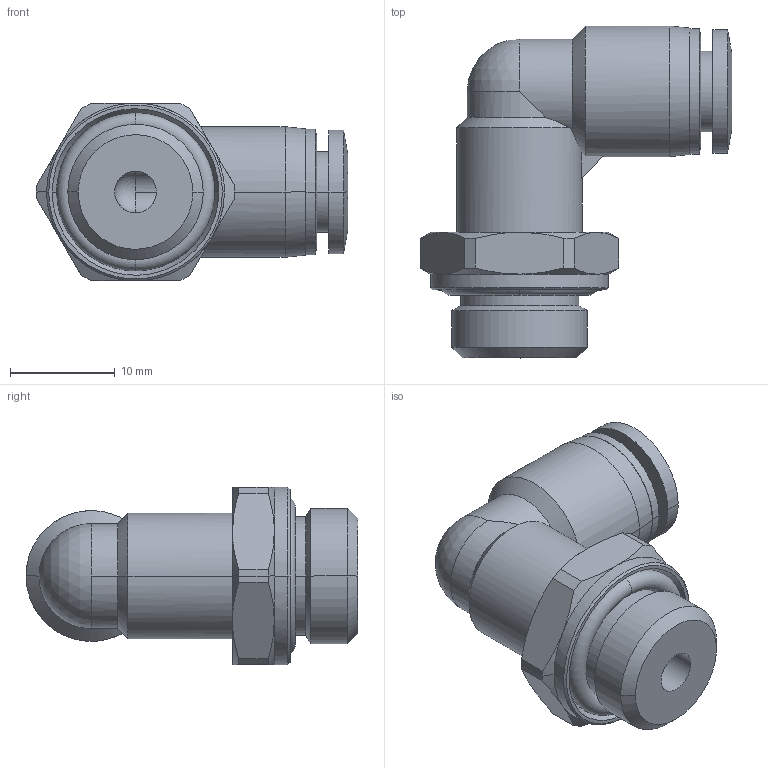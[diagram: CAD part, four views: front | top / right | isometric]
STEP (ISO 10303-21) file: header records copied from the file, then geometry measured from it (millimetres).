
FILE_DESCRIPTION (( 'STEP AP203' ), '1' );
FILE_NAME ('FL06-02.STEP', '2020-04-28T13:41:24', ( '' ), ( '' ), 'SwSTEP 2.0', 'SolidWorks 2019', '' );
FILE_SCHEMA (( 'CONFIG_CONTROL_DESIGN' ));
Length unit declared in the file: millimetre
Products named in the file (1): FL06-02
Bounding box: 29.8 x 31.75 x 17 mm (x, y, z)
Surface area: 3380.9 mm2 (no closed solid volume)
Topology: 0 solids, 4 shells, 93 faces, 223 edges, 138 vertices
Faces by surface type: cylinder 34, cone 32, plane 19, torus 4, bspline 2, sphere 2
Entity records: 4507 total; most frequent: CARTESIAN_POINT 2658, ORIENTED_EDGE 424, DIRECTION 236, EDGE_CURVE 220, B_SPLINE_CURVE_WITH_KNOTS 170, VERTEX_POINT 137, EDGE_LOOP 103, AXIS2_PLACEMENT_3D 96
